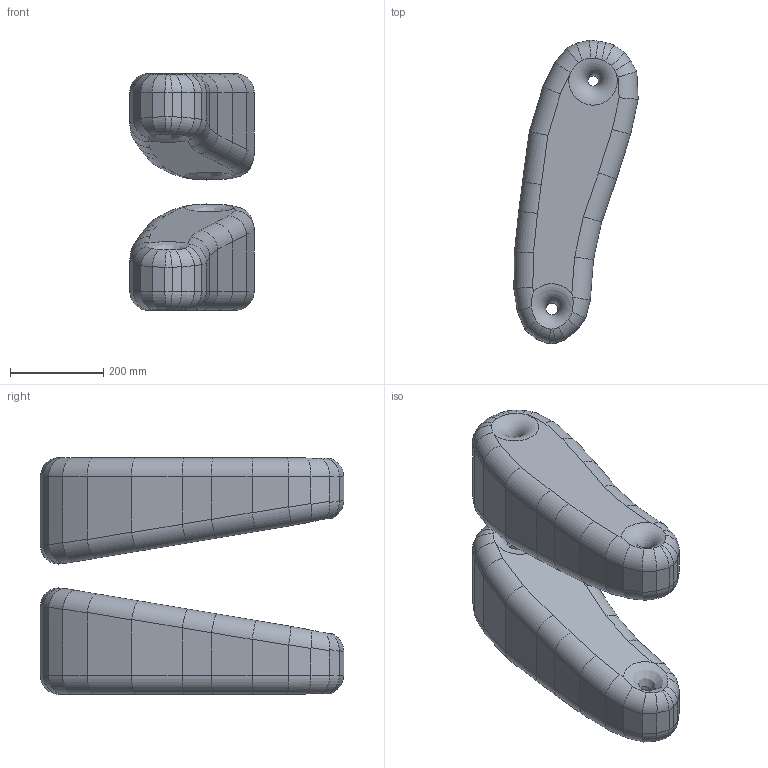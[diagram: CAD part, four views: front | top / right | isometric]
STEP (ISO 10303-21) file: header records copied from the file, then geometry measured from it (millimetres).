
FILE_DESCRIPTION(/* description */ ('Alibre Inc.'),/* implementation_level */ '2;1');
FILE_NAME(/* name */ 'export0',/* time_stamp */ '2007-03-23T19:18:39-07:00',/* author */ (''),/* organization */ (''),/* preprocessor_version */ 'ST-DEVELOPER v10',/* originating_system */ 'Alibre',/* authorisation */ '');
FILE_SCHEMA (('ALIBRE_SCHEMA','CONFIG_CONTROL_DESIGN'));
Length unit declared in the file: centimetre
Products named in the file (1): ID_1
Bounding box: 266.71 x 650.89 x 508 mm (x, y, z)
Volume: 39349221.2 mm3; surface area: 950388.8 mm2
Topology: 2 solids, 2 shells, 196 faces, 536 edges, 336 vertices
Faces by surface type: cylinder 124, plane 64, bspline 4, torus 4
Full cylindrical faces by diameter (mm): 22.786 x2, 26.44 x2
Entity records: 7733 total; most frequent: CARTESIAN_POINT 1979, ORIENTED_EDGE 1044, DIRECTION 954, EDGE_CURVE 522, PERSISTANTTOPOLOGYATTRIBUTE 430, AXIS2_PLACEMENT_3D 367, VERTEX_POINT 330, VECTOR 259
